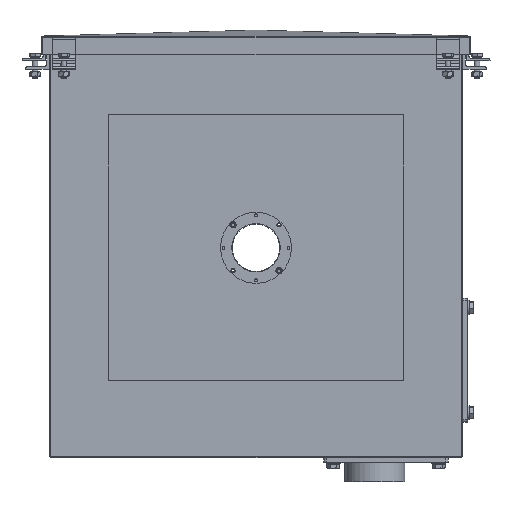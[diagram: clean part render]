
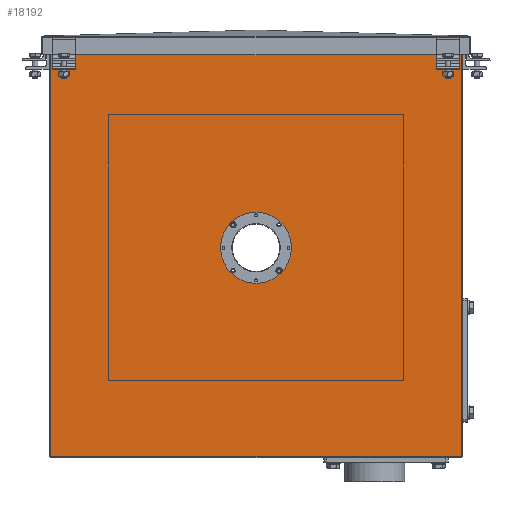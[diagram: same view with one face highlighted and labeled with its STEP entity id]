
A CAD part, left-side view. The second image highlights one B-rep face of the part: STEP entity #18192.
In plain terms, the highlighted planar face has unit normal (-1, 0, 0).
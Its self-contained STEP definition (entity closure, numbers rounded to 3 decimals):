
#171=LINE('',#27019,#1394);
#172=LINE('',#27021,#1395);
#173=LINE('',#27023,#1396);
#174=LINE('',#27024,#1397);
#175=LINE('',#27027,#1398);
#176=LINE('',#27029,#1399);
#177=LINE('',#27031,#1400);
#178=LINE('',#27032,#1401);
#179=LINE('',#27035,#1402);
#180=LINE('',#27037,#1403);
#181=LINE('',#27039,#1404);
#182=LINE('',#27040,#1405);
#1394=VECTOR('',#21772,696.);
#1395=VECTOR('',#21773,699.);
#1396=VECTOR('',#21774,696.);
#1397=VECTOR('',#21775,699.);
#1398=VECTOR('',#21776,40.);
#1399=VECTOR('',#21777,40.);
#1400=VECTOR('',#21778,40.);
#1401=VECTOR('',#21779,40.);
#1402=VECTOR('',#21780,40.);
#1403=VECTOR('',#21781,40.);
#1404=VECTOR('',#21782,40.);
#1405=VECTOR('',#21783,40.);
#2992=PLANE('',#19464);
#3886=FACE_BOUND('',#5626,.T.);
#3887=FACE_BOUND('',#5627,.T.);
#3888=FACE_BOUND('',#5628,.T.);
#4419=FACE_OUTER_BOUND('',#5625,.T.);
#5625=EDGE_LOOP('',(#12387,#12388,#12389,#12390));
#5626=EDGE_LOOP('',(#12391,#12392,#12393,#12394));
#5627=EDGE_LOOP('',(#12395,#12396,#12397,#12398));
#5628=EDGE_LOOP('',(#12399));
#7069=CIRCLE('',#19458,60.);
#7942=VERTEX_POINT('',#27005);
#7947=VERTEX_POINT('',#27017);
#7948=VERTEX_POINT('',#27018);
#7949=VERTEX_POINT('',#27020);
#7950=VERTEX_POINT('',#27022);
#7951=VERTEX_POINT('',#27025);
#7952=VERTEX_POINT('',#27026);
#7953=VERTEX_POINT('',#27028);
#7954=VERTEX_POINT('',#27030);
#7955=VERTEX_POINT('',#27033);
#7956=VERTEX_POINT('',#27034);
#7957=VERTEX_POINT('',#27036);
#7958=VERTEX_POINT('',#27038);
#9673=EDGE_CURVE('',#7942,#7942,#7069,.T.);
#9678=EDGE_CURVE('',#7947,#7948,#171,.T.);
#9679=EDGE_CURVE('',#7948,#7949,#172,.T.);
#9680=EDGE_CURVE('',#7949,#7950,#173,.T.);
#9681=EDGE_CURVE('',#7950,#7947,#174,.T.);
#9682=EDGE_CURVE('',#7951,#7952,#175,.T.);
#9683=EDGE_CURVE('',#7952,#7953,#176,.T.);
#9684=EDGE_CURVE('',#7953,#7954,#177,.T.);
#9685=EDGE_CURVE('',#7954,#7951,#178,.T.);
#9686=EDGE_CURVE('',#7955,#7956,#179,.T.);
#9687=EDGE_CURVE('',#7956,#7957,#180,.T.);
#9688=EDGE_CURVE('',#7957,#7958,#181,.T.);
#9689=EDGE_CURVE('',#7958,#7955,#182,.T.);
#12387=ORIENTED_EDGE('',*,*,#9678,.T.);
#12388=ORIENTED_EDGE('',*,*,#9679,.T.);
#12389=ORIENTED_EDGE('',*,*,#9680,.T.);
#12390=ORIENTED_EDGE('',*,*,#9681,.T.);
#12391=ORIENTED_EDGE('',*,*,#9682,.T.);
#12392=ORIENTED_EDGE('',*,*,#9683,.T.);
#12393=ORIENTED_EDGE('',*,*,#9684,.T.);
#12394=ORIENTED_EDGE('',*,*,#9685,.T.);
#12395=ORIENTED_EDGE('',*,*,#9686,.T.);
#12396=ORIENTED_EDGE('',*,*,#9687,.T.);
#12397=ORIENTED_EDGE('',*,*,#9688,.T.);
#12398=ORIENTED_EDGE('',*,*,#9689,.T.);
#12399=ORIENTED_EDGE('',*,*,#9673,.T.);
#18192=ADVANCED_FACE('',(#4419,#3886,#3887,#3888),#2992,.F.);
#19458=AXIS2_PLACEMENT_3D('',#27006,#21758,#21759);
#19464=AXIS2_PLACEMENT_3D('',#27016,#21770,#21771);
#21758=DIRECTION('center_axis',(1.,0.,0.));
#21759=DIRECTION('ref_axis',(0.,0.707,0.707));
#21770=DIRECTION('center_axis',(1.,0.,0.));
#21771=DIRECTION('ref_axis',(0.,1.,0.));
#21772=DIRECTION('',(0.,1.,0.));
#21773=DIRECTION('',(0.,0.,-1.));
#21774=DIRECTION('',(0.,-1.,0.));
#21775=DIRECTION('',(0.,0.,1.));
#21776=DIRECTION('',(0.,0.,-1.));
#21777=DIRECTION('',(0.,1.,0.));
#21778=DIRECTION('',(0.,0.,1.));
#21779=DIRECTION('',(0.,-1.,0.));
#21780=DIRECTION('',(0.,0.,-1.));
#21781=DIRECTION('',(0.,1.,0.));
#21782=DIRECTION('',(0.,0.,1.));
#21783=DIRECTION('',(0.,-1.,0.));
#27005=CARTESIAN_POINT('',(-459.484,-42.426,312.557));
#27006=CARTESIAN_POINT('Origin',(-459.484,0.,354.984));
#27016=CARTESIAN_POINT('Origin',(-459.484,0.,352.984));
#27017=CARTESIAN_POINT('',(-459.484,-348.,700.984));
#27018=CARTESIAN_POINT('',(-459.484,348.,700.984));
#27019=CARTESIAN_POINT('',(-459.484,-174.,700.984));
#27020=CARTESIAN_POINT('',(-459.484,348.,1.984));
#27021=CARTESIAN_POINT('',(-459.484,348.,702.984));
#27022=CARTESIAN_POINT('',(-459.484,-348.,1.984));
#27023=CARTESIAN_POINT('',(-459.484,348.,1.984));
#27024=CARTESIAN_POINT('',(-459.484,-348.,2.984));
#27025=CARTESIAN_POINT('',(-459.484,305.,697.267));
#27026=CARTESIAN_POINT('',(-459.484,305.,657.267));
#27027=CARTESIAN_POINT('',(-459.484,305.,511.063));
#27028=CARTESIAN_POINT('',(-459.484,345.,657.267));
#27029=CARTESIAN_POINT('',(-459.484,162.5,657.267));
#27030=CARTESIAN_POINT('',(-459.484,345.,697.267));
#27031=CARTESIAN_POINT('',(-459.484,345.,511.063));
#27032=CARTESIAN_POINT('',(-459.484,162.5,697.267));
#27033=CARTESIAN_POINT('',(-459.484,-345.,697.267));
#27034=CARTESIAN_POINT('',(-459.484,-345.,657.267));
#27035=CARTESIAN_POINT('',(-459.484,-345.,511.063));
#27036=CARTESIAN_POINT('',(-459.484,-305.,657.267));
#27037=CARTESIAN_POINT('',(-459.484,-162.5,657.267));
#27038=CARTESIAN_POINT('',(-459.484,-305.,697.267));
#27039=CARTESIAN_POINT('',(-459.484,-305.,511.063));
#27040=CARTESIAN_POINT('',(-459.484,-162.5,697.267));
